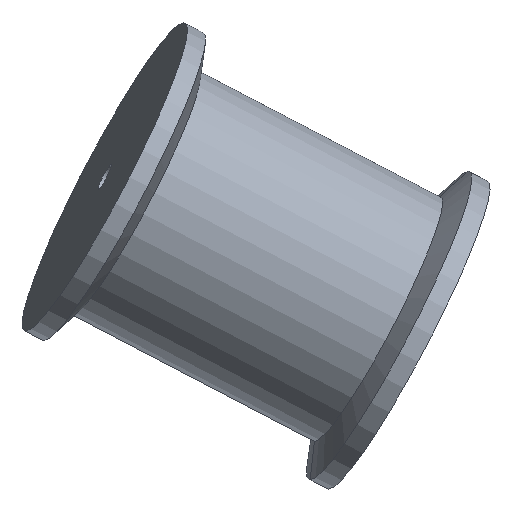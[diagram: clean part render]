
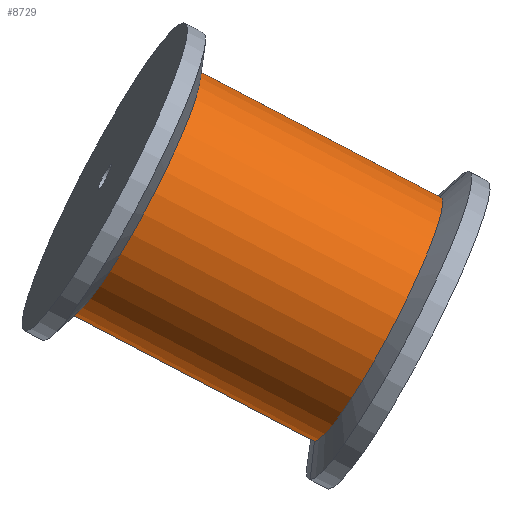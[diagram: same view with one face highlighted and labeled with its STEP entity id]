
A CAD part, front view. The second image highlights one B-rep face of the part: STEP entity #8729.
In plain terms, the highlighted cylindrical face has radius 20 mm (diameter 40 mm), a partial arc.
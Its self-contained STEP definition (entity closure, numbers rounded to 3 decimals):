
#228 = CARTESIAN_POINT ( 'NONE',  ( 0., 0., 20. ) ) ;
#620 = AXIS2_PLACEMENT_3D ( 'NONE', #4738, #882, #11786 ) ;
#882 = DIRECTION ( 'NONE',  ( 0., 0., -1. ) ) ;
#1660 = ORIENTED_EDGE ( 'NONE', *, *, #5873, .F. ) ;
#2326 = VERTEX_POINT ( 'NONE', #10397 ) ;
#2442 = LINE ( 'NONE', #10719, #5479 ) ;
#2498 = DIRECTION ( 'NONE',  ( 0., 0., -1. ) ) ;
#2719 = CARTESIAN_POINT ( 'NONE',  ( -20., 0., 25. ) ) ;
#3210 = CARTESIAN_POINT ( 'NONE',  ( 20., 0., -20. ) ) ;
#3585 = CIRCLE ( 'NONE', #10257, 20. ) ;
#4427 = VERTEX_POINT ( 'NONE', #8339 ) ;
#4711 = DIRECTION ( 'NONE',  ( 0., 0., -1. ) ) ;
#4738 = CARTESIAN_POINT ( 'NONE',  ( 0., 0., 25. ) ) ;
#5479 = VECTOR ( 'NONE', #2498, 1000. ) ;
#5605 = CARTESIAN_POINT ( 'NONE',  ( 0., 0., -20. ) ) ;
#5873 = EDGE_CURVE ( 'NONE', #4427, #10612, #2442, .T. ) ;
#5933 = AXIS2_PLACEMENT_3D ( 'NONE', #5605, #4711, #8371 ) ;
#6056 = VECTOR ( 'NONE', #11723, 1000. ) ;
#6079 = EDGE_CURVE ( 'NONE', #6082, #2326, #10881, .T. ) ;
#6082 = VERTEX_POINT ( 'NONE', #9227 ) ;
#8126 = ORIENTED_EDGE ( 'NONE', *, *, #10532, .F. ) ;
#8230 = ORIENTED_EDGE ( 'NONE', *, *, #6079, .T. ) ;
#8339 = CARTESIAN_POINT ( 'NONE',  ( 20., 0., 20. ) ) ;
#8371 = DIRECTION ( 'NONE',  ( -1., 0., 0. ) ) ;
#8729 = ADVANCED_FACE ( 'NONE', ( #11072 ), #9171, .T. ) ;
#9171 = CYLINDRICAL_SURFACE ( 'NONE', #620, 20. ) ;
#9227 = CARTESIAN_POINT ( 'NONE',  ( -20., 0., 20. ) ) ;
#9360 = CIRCLE ( 'NONE', #5933, 20. ) ;
#10073 = EDGE_LOOP ( 'NONE', ( #1660, #10155, #8230, #8126 ) ) ;
#10155 = ORIENTED_EDGE ( 'NONE', *, *, #11101, .T. ) ;
#10257 = AXIS2_PLACEMENT_3D ( 'NONE', #228, #11126, #10349 ) ;
#10349 = DIRECTION ( 'NONE',  ( -1., 0., 0. ) ) ;
#10397 = CARTESIAN_POINT ( 'NONE',  ( -20., 0., -20. ) ) ;
#10532 = EDGE_CURVE ( 'NONE', #10612, #2326, #9360, .T. ) ;
#10612 = VERTEX_POINT ( 'NONE', #3210 ) ;
#10719 = CARTESIAN_POINT ( 'NONE',  ( 20., 0., 25. ) ) ;
#10881 = LINE ( 'NONE', #2719, #6056 ) ;
#11072 = FACE_OUTER_BOUND ( 'NONE', #10073, .T. ) ;
#11101 = EDGE_CURVE ( 'NONE', #4427, #6082, #3585, .T. ) ;
#11126 = DIRECTION ( 'NONE',  ( 0., 0., -1. ) ) ;
#11723 = DIRECTION ( 'NONE',  ( 0., 0., -1. ) ) ;
#11786 = DIRECTION ( 'NONE',  ( -1., 0., 0. ) ) ;
